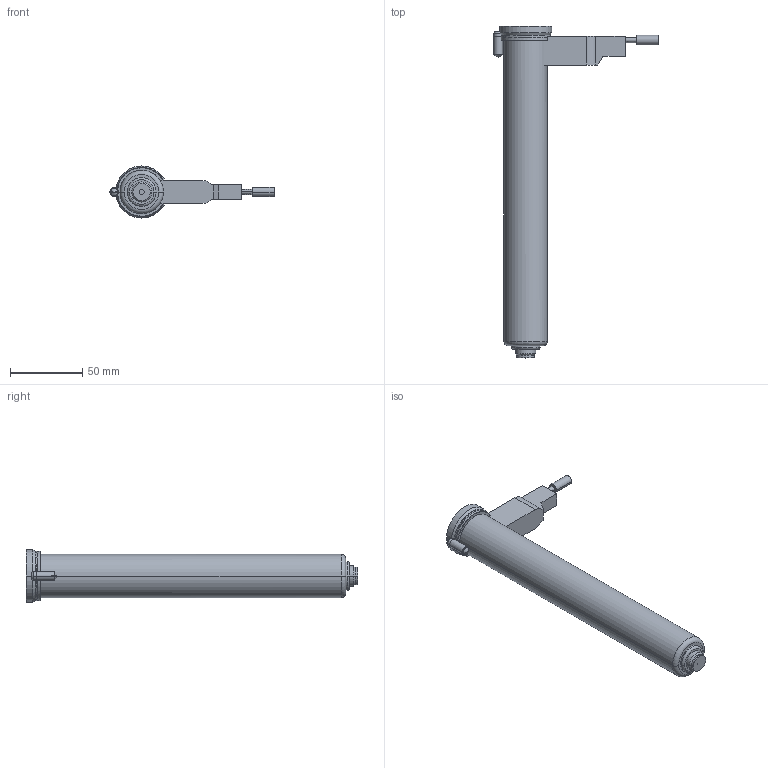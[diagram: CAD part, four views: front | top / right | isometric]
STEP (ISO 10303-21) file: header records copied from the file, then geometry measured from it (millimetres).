
FILE_DESCRIPTION((''),'2;1');
FILE_NAME('SV250029-C_ASM','2013-02-21T',('benoit'),(''),'PRO/ENGINEER BY PARAMETRIC TECHNOLOGY CORPORATION, 2007450','PRO/ENGINEER BY PARAMETRIC TECHNOLOGY CORPORATION, 2007450','');
FILE_SCHEMA(('CONFIG_CONTROL_DESIGN'));
Length unit declared in the file: millimetre
Products named in the file (7): MB250029; BF250009; TP250100; GOUPILLE-6-16; 18X1_2E; SV6-POCHE-229-C_T1; SV250029-C_ASM
Assembly tree (6 placements, depth 2):
  SV250029-C_ASM
    MB250029
    BF250009
    TP250100
    GOUPILLE-6-16
    18X1_2E
    SV6-POCHE-229-C_T1
Bounding box: 113.7 x 229.74 x 36 mm (x, y, z)
Volume: 247683.3 mm3; surface area: 93487.6 mm2
Topology: 8 solids, 8 shells, 219 faces, 516 edges, 320 vertices
Faces by surface type: cylinder 85, plane 65, cone 29, bspline 18, torus 16, sphere 6
Entity records: 10974 total; most frequent: CARTESIAN_POINT 5761, DIRECTION 1114, ORIENTED_EDGE 1024, EDGE_CURVE 512, AXIS2_PLACEMENT_3D 451, VERTEX_POINT 320, EDGE_LOOP 240, CIRCLE 237
